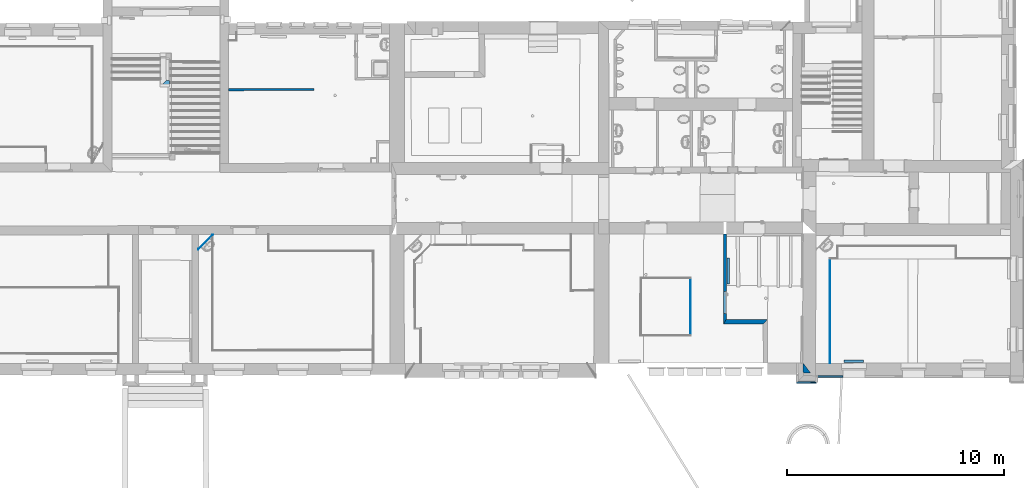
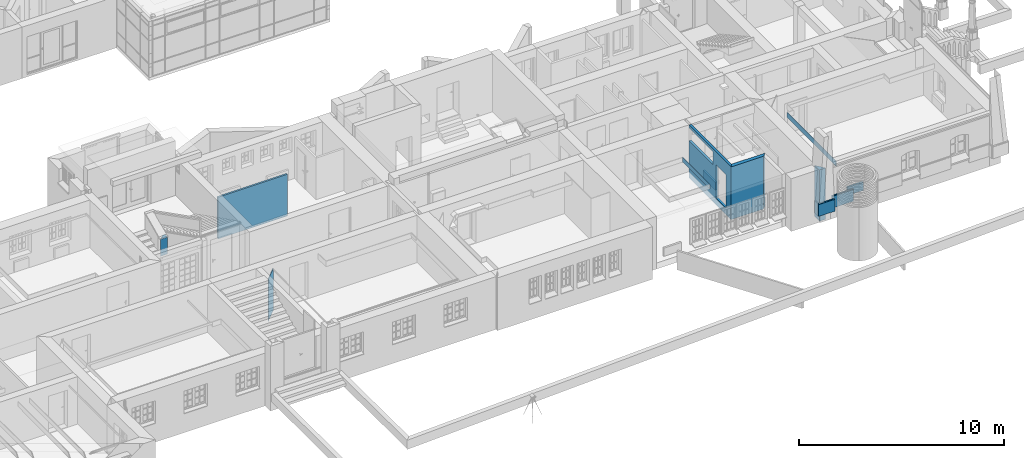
# One storey, part 38 of 196: 12 walls, 2 openings.
"""IFC2X3 building model written with IfcOpenShell, lengths in metres."""

from ifc_helpers import new_model, entity, si_unit, converted_unit, derived_unit, money_unit, point, direction, frame, frame_2d, origin_with_axes, origin_2d_with_axis, place, context, subcontext, project, spatial, polyline, circle_curve, parameter, trimmed, segment, composite_curve, rectangle, outline, extrude, material, layer, layer_set, layer_usage, type_object, element, save


model = new_model("IFC2X3")

# Units and contexts
model_context = context("Model", 3, precision=1e-05, world=origin_with_axes(), true_north=direction((0.0, 1.0)))
body_context = subcontext(model_context, "Body", "Model", "MODEL_VIEW")
ifc_project = project(units=[si_unit("LENGTHUNIT", "METRE"), si_unit("AREAUNIT", "SQUARE_METRE"), si_unit("VOLUMEUNIT", "CUBIC_METRE"), converted_unit("PLANEANGLEUNIT", "DEGREE", entity("IfcPlaneAngleMeasure", 0.0174532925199), si_unit("PLANEANGLEUNIT", "RADIAN"), dimensions=[0, 0, 0, 0, 0, 0, 0]), money_unit("EUR"), converted_unit("TIMEUNIT", "Year", entity("IfcTimeMeasure", 31556926.0), si_unit("TIMEUNIT", "SECOND"), dimensions=[0, 0, 1, 0, 0, 0, 0]), si_unit("MASSUNIT", "GRAM", prefix="KILO"), si_unit("THERMODYNAMICTEMPERATUREUNIT", "DEGREE_CELSIUS"), si_unit("LUMINOUSINTENSITYUNIT", "LUMEN"), si_unit("ENERGYUNIT", "JOULE", prefix="MEGA"), derived_unit("THERMALCONDUCTANCEUNIT", [(si_unit("POWERUNIT", "WATT"), 1), (si_unit("LENGTHUNIT", "METRE"), -1), (si_unit("THERMODYNAMICTEMPERATUREUNIT", "KELVIN"), -1)]), derived_unit("SPECIFICHEATCAPACITYUNIT", [(si_unit("ENERGYUNIT", "JOULE"), 1), (si_unit("MASSUNIT", "GRAM", prefix="KILO"), -1), (si_unit("THERMODYNAMICTEMPERATUREUNIT", "KELVIN"), -1)]), derived_unit("MASSDENSITYUNIT", [(si_unit("MASSUNIT", "GRAM", prefix="KILO"), 1), (si_unit("VOLUMEUNIT", "CUBIC_METRE"), -1)])], contexts=[model_context])

# Site, building, storey
site_placement = place(None, origin_with_axes())
site = spatial("IfcSite", under=ifc_project, at=site_placement, Name="Gelände", CompositionType="ELEMENT")
building_placement = place(site_placement, origin_with_axes())
building = spatial("IfcBuilding", under=site, at=building_placement, Name="Gebäude", CompositionType="ELEMENT")
storey_placement = place(building_placement, frame((0.0, 0.0, -3.0), z_axis=(0.0, 0.0, 1.0), x_axis=(1.0, 0.0, 0.0)))
storey = spatial("IfcBuildingStorey", under=building, at=storey_placement, Name="KELLERGESCHOSS", CompositionType="ELEMENT", Elevation=-3.0)

# Walls
ifc_material_1 = material(Name="05_ALLGEMEIN - TRAGENDE BAUTEILE")
ifc_layer_1 = layer(ifc_material_1, 0.4, ventilated="UNKNOWN")
ifc_layer_set_1 = layer_set([ifc_layer_1], Name="05_ALLGEMEIN - TRAGENDE BAUTEILE 0.4")
ifc_layer_usage_1 = layer_usage(ifc_layer_set_1, "AXIS2", "NEGATIVE", 0.4)
wall_type_1 = type_object("IfcWallType", Name="05_ALLGEMEIN - TRAGENDE BAUTEILE 400", PredefinedType="ELEMENTEDWALL")
wall_1_placement = place(storey_placement, frame((21.9741936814, 10.0144287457, -0.36), z_axis=(0.0, 0.0, 1.0), x_axis=(0.00946795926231, -0.999955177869, 0.0)))
element("IfcWallStandardCase", 1, at=wall_1_placement, inside=storey, type_object=wall_type_1, material=ifc_layer_usage_1, Name="Wand-035", ObjectType="ELEMENTEDWALL", context=body_context, shape_type="SweptSolid", body=[
    extrude(outline(polyline([(-0.460017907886, 0.0), (-5.56168722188e-10, 0.0), (-5.56168722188e-10, 0.34487318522), (-0.460017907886, 0.0)])), origin_with_axes(), (0.0, 0.0, 1.0), 3.065),
])
ifc_material_2 = material(Name="43_Gipskarton")
ifc_layer_2 = layer(ifc_material_2, 0.03, ventilated="UNKNOWN")
ifc_layer_set_2 = layer_set([ifc_layer_2], Name="43_Gipskarton 0.03")
ifc_layer_usage_2 = layer_usage(ifc_layer_set_2, "AXIS2", "NEGATIVE", 0.03)
wall_type_2 = type_object("IfcWallType", Name="43_Gipskarton 30", PredefinedType="ELEMENTEDWALL")
wall_2_placement = place(storey_placement, frame((-6.14787640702, 15.4045680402, -0.0343679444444), z_axis=(0.0, 0.0, 1.0), x_axis=(0.703426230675, 0.710768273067, 0.0)))
element("IfcWallStandardCase", 2, at=wall_2_placement, inside=storey, type_object=wall_type_2, material=ifc_layer_usage_2, Name="Wand-034", ObjectType="ELEMENTEDWALL", context=body_context, shape_type="SweptSolid", body=[
    extrude(outline(polyline([(0.412194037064, 0.0), (1.38977331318, 0.0), (1.36002988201, 0.03), (0.442496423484, 0.03), (0.412194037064, 0.0)])), origin_with_axes(), (0.0, 0.0, 1.0), 2.49436794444),
])
ifc_layer_usage_3 = layer_usage(ifc_layer_set_2, "AXIS2", "NEGATIVE", 0.0)
wall_3_placement = place(storey_placement, frame((23.2237385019, 15.2753213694, 2.22), z_axis=(0.0, 0.0, 1.0), x_axis=(-0.00243813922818, -0.999997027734, 0.0)))
element("IfcWallStandardCase", 3, at=wall_3_placement, inside=storey, type_object=wall_type_2, material=ifc_layer_usage_3, Name="Wand-073", ObjectType="ELEMENTEDWALL", context=body_context, shape_type="SweptSolid", body=[
    extrude(outline(polyline([(-0.0299239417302, -0.03), (4.8060744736, -0.03), (4.8060744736, 0.0), (0.0, 0.0), (-0.0299239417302, -0.03)])), origin_with_axes(), (0.0, 0.0, 1.0), 0.29),
])
ifc_layer_usage_4 = layer_usage(ifc_layer_set_2, "AXIS2", "NEGATIVE", 0.03)
wall_4_placement = place(storey_placement, frame((16.7971583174, 11.7255781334, 2.35), z_axis=(0.0, 0.0, 1.0), x_axis=(0.000460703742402, 0.999999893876, 0.0)))
element("IfcWallStandardCase", 4, at=wall_4_placement, inside=storey, type_object=wall_type_2, material=ifc_layer_usage_4, Name="Wand-077", ObjectType="ELEMENTEDWALL", context=body_context, shape_type="SweptSolid", body=[
    extrude(outline(polyline([(0.0, 0.0), (2.67967465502, 0.0), (2.64965409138, 0.03), (0.0300708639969, 0.03), (0.0, 0.0)])), origin_with_axes(), (0.0, 0.0, 1.0), 0.27),
])
ifc_material_3 = material(Name="01_ALLGEMEIN - BAUTEIL")
ifc_layer_3 = layer(ifc_material_3, 0.105, ventilated="UNKNOWN")
ifc_layer_set_3 = layer_set([ifc_layer_3], Name="01_ALLGEMEIN - BAUTEIL 0.105")
ifc_layer_usage_5 = layer_usage(ifc_layer_set_3, "AXIS2", "NEGATIVE", 0.0)
wall_type_3 = type_object("IfcWallType", Name="01_ALLGEMEIN - BAUTEIL 105", PredefinedType="ELEMENTEDWALL")
wall_5_placement = place(storey_placement, frame((23.851829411, 10.613421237, 0.217027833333), z_axis=(0.0, 0.0, 1.0), x_axis=(0.999989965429, -0.00447984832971, 0.0)))
element("IfcWallStandardCase", 5, at=wall_5_placement, inside=storey, type_object=wall_type_3, material=ifc_layer_usage_5, Name="Wand-036", ObjectType="ELEMENTEDWALL", context=body_context, shape_type="SweptSolid", body=[
    extrude(outline(polyline([(0.0, -0.105), (0.891085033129, -0.105), (0.891085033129, 0.0), (0.0, 0.0), (0.0, -0.105)])), origin_with_axes(), (0.0, 0.0, 1.0), 0.485031),
])
ifc_layer_usage_6 = layer_usage(ifc_layer_set_3, "AXIS2", "NEGATIVE", 0.105)
wall_6_placement = place(storey_placement, frame((18.5712913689, 14.1164183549, 0.217027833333), z_axis=(0.0, 0.0, 1.0), x_axis=(0.00219004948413, 0.999997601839, 0.0)))
element("IfcWallStandardCase", 6, at=wall_6_placement, inside=storey, type_object=wall_type_3, material=ifc_layer_usage_6, Name="Wand-036", ObjectType="ELEMENTEDWALL", context=body_context, shape_type="SweptSolid", body=[
    extrude(outline(polyline([(0.0, 0.0), (1.19576771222, 0.0), (1.19576771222, 0.105), (0.0, 0.105), (0.0, 0.0)])), origin_with_axes(), (0.0, 0.0, 1.0), 0.485031),
])
ifc_layer_4 = layer(ifc_material_2, 0.1, ventilated="UNKNOWN")
ifc_layer_set_4 = layer_set([ifc_layer_4], Name="43_Gipskarton 0.1")
ifc_layer_usage_7 = layer_usage(ifc_layer_set_4, "AXIS2", "NEGATIVE", 0.0)
wall_type_4 = type_object("IfcWallType", Name="43_Gipskarton 100", PredefinedType="ELEMENTEDWALL")
wall_7_placement = place(storey_placement, frame((-4.46364937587, 23.1067100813, -0.04), z_axis=(0.0, 0.0, 1.0), x_axis=(0.999995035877, 0.0031509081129, 0.0)))
element("IfcWallStandardCase", 7, at=wall_7_placement, inside=storey, type_object=wall_type_4, material=ifc_layer_usage_7, Name="Wand-039", ObjectType="ELEMENTEDWALL", context=body_context, shape_type="SweptSolid", body=[
    extrude(outline(polyline([(-0.00035918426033, -0.1), (3.93183830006, -0.1), (3.93183830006, 0.0), (0.0, 0.0), (-0.00035918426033, -0.1)])), origin_with_axes(), (0.0, 0.0, 1.0), 2.48),
])

# Wall, openings
ifc_layer_5 = layer(ifc_material_1, 0.13, ventilated="UNKNOWN")
ifc_layer_set_5 = layer_set([ifc_layer_5], Name="05_ALLGEMEIN - TRAGENDE BAUTEILE 0.13")
ifc_layer_usage_8 = layer_usage(ifc_layer_set_5, "AXIS2", "NEGATIVE", 0.13)
wall_type_5 = type_object("IfcWallType", Name="05_ALLGEMEIN - TRAGENDE BAUTEILE 130", PredefinedType="ELEMENTEDWALL")
wall_8_placement = place(storey_placement, frame((18.4315065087, 12.4853995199, -0.36), z_axis=(0.0, 0.0, 1.0), x_axis=(0.00209980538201, 0.999997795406, 0.0)))
wall_8 = element("IfcWallStandardCase", 8, at=wall_8_placement, inside=storey, type_object=wall_type_5, material=ifc_layer_usage_8, Name="Wand-036", ObjectType="ELEMENTEDWALL", context=body_context, shape_type="SweptSolid", body=[
    extrude(outline(polyline([(0.0, 0.0), (3.93884039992, 0.0), (3.93835721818, 0.13), (-0.200101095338, 0.13), (0.0, 0.0)])), origin_with_axes(), (0.0, 0.0, 1.0), 3.15),
])
opening_1_placement = place(wall_8_placement, frame((2.74600881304, 0.0, 2.202371), z_axis=(0.0, 0.0, 1.0), x_axis=(1.0, 0.0, 0.0)))
element("IfcOpeningElement", 9, at=opening_1_placement, cuts=wall_8, Name="Fenster-019", context=body_context, shape_type="SweptSolid", body=[
    extrude(rectangle(XDim=2.38566317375, YDim=0.777629, at=origin_2d_with_axis()), frame((0.0, -0.13, 0.3888145), z_axis=(0.0, 1.0, 0.0), x_axis=(-1.0, 0.0, 0.0)), (0.0, 0.0, 1.0), 0.39),
])
opening_2_placement = place(wall_8_placement, frame((0.780892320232, 0.0, 0.384264), z_axis=(0.0, 0.0, 1.0), x_axis=(1.0, 0.0, 0.0)))
element("IfcOpeningElement", 10, at=opening_2_placement, cuts=wall_8, Name="Tür-022", context=body_context, shape_type="SweptSolid", body=[
    extrude(rectangle(XDim=0.994294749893, YDim=1.98261, at=origin_2d_with_axis()), frame((0.0, -0.13, 0.991305), z_axis=(0.0, 1.0, 0.0), x_axis=(-1.0, 0.0, 0.0)), (0.0, 0.0, 1.0), 0.39),
])

# Walls
ifc_material_4 = material(Name="60_MW Porenbeton")
ifc_layer_6 = layer(ifc_material_4, 0.2, ventilated="UNKNOWN")
ifc_layer_set_6 = layer_set([ifc_layer_6], Name="60_MW Porenbeton 0.2")
ifc_layer_usage_9 = layer_usage(ifc_layer_set_6, "AXIS2", "NEGATIVE", 0.2)
wall_type_6 = type_object("IfcWallType", Name="60_MW Porenbeton 200", PredefinedType="ELEMENTEDWALL")
wall_9_placement = place(storey_placement, frame((20.3286065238, 12.482890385, -0.36), z_axis=(0.0, 0.0, 1.0), x_axis=(-0.999999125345, 0.00132261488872, 0.0)))
element("IfcWallStandardCase", 11, at=wall_9_placement, inside=storey, type_object=wall_type_6, material=ifc_layer_usage_9, Name="Wand-037", ObjectType="ELEMENTEDWALL", context=body_context, shape_type="SweptSolid", body=[
    extrude(outline(polyline([(0.0, 0.0), (1.89710167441, 0.0), (2.02725715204, 0.2), (0.198828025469, 0.2), (0.0, 0.0)])), origin_with_axes(), (0.0, 0.0, 1.0), 3.15),
])
ifc_layer_7 = layer(ifc_material_1, 0.263583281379, ventilated="UNKNOWN")
ifc_layer_set_7 = layer_set([ifc_layer_7], Name="05_ALLGEMEIN - TRAGENDE BAUTEILE 0.263583")
ifc_layer_usage_10 = layer_usage(ifc_layer_set_7, "AXIS2", "NEGATIVE", 0.0)
wall_type_7 = type_object("IfcWallType", Name="05_ALLGEMEIN - TRAGENDE BAUTEILE 264", PredefinedType="ELEMENTEDWALL")
wall_10_placement = place(storey_placement, frame((-6.92928317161, 23.2180401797, -0.1), z_axis=(0.0, 0.0, 1.0), x_axis=(-0.999917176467, -0.012870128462, 0.0)))
element("IfcWallStandardCase", 12, at=wall_10_placement, inside=storey, type_object=wall_type_7, material=ifc_layer_usage_10, Name="Wand-038", ObjectType="ELEMENTEDWALL", context=body_context, shape_type="SweptSolid", body=[
    extrude(outline(polyline([(0.260212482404, -0.263583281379), (0.405553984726, -0.263583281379), (0.670612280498, 0.0), (0.263605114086, 0.0), (0.260212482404, -0.263583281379)])), origin_with_axes(), (0.0, 0.0, 1.0), 1.01149196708),
])
wall_type_8 = type_object("IfcWallType", Name="Sockel 1 59 x 750", PredefinedType="ELEMENTEDWALL")
wall_11_placement = place(storey_placement, frame((23.7937389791, 9.88941769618, 1.05914340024), z_axis=(0.0, 0.0, 1.0), x_axis=(-0.999999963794, -0.000269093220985, 0.0)))
element("IfcWall", 13, at=wall_11_placement, inside=storey, type_object=wall_type_8, material=ifc_material_3, Name="Wand-079", ObjectType="ELEMENTEDWALL", context=body_context, shape_type="SweptSolid", body=[
    extrude(outline(composite_curve([segment(polyline([(0.0582254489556, -0.75), (0.0575648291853, -0.072488)]), True, "CONTINUOUS"), segment(trimmed(circle_curve(frame_2d((0.00752199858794, -0.0589368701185), x_axis=(0.965236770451, -0.261377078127)), 0.0518451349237), [point((0.0575648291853, -0.072488)), parameter(0.0)], [point((0.0162927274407, -0.007839)), parameter(95.4121261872)], True, "CARTESIAN"), True, "CONTINUOUS"), segment(polyline([(0.0162927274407, -0.007839), (0.00232171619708, 0.0), (0.0, 0.0), (0.0, -0.75), (0.0582254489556, -0.75)]), True, "CONTINUOUS")], self_intersect=False)), frame((0.0, 0.0, 0.0), z_axis=(1.0, 0.0, 0.0), x_axis=(0.0, 1.0, 0.0)), (0.0, 0.0, 1.0), 1.21176734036),
])
wall_12_placement = place(storey_placement, frame((22.5786250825, 9.6059762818, 1.05914340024), z_axis=(0.0, 0.0, 1.0), x_axis=(-0.999925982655, 0.0121667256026, 0.0)))
element("IfcWall", 14, at=wall_12_placement, inside=storey, type_object=wall_type_8, material=ifc_material_3, Name="Wand-080", ObjectType="ELEMENTEDWALL", context=body_context, shape_type="SweptSolid", body=[
    extrude(outline(composite_curve([segment(polyline([(0.0582254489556, -0.75), (0.0575648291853, -0.072488)]), True, "CONTINUOUS"), segment(trimmed(circle_curve(frame_2d((0.00752199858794, -0.0589368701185), x_axis=(0.965236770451, -0.261377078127)), 0.0518451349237), [point((0.0575648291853, -0.072488)), parameter(0.0)], [point((0.0162927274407, -0.007839)), parameter(95.4121261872)], True, "CARTESIAN"), True, "CONTINUOUS"), segment(polyline([(0.0162927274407, -0.007839), (0.00232171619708, 0.0), (0.0, 0.0), (0.0, -0.75), (0.0582254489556, -0.75)]), True, "CONTINUOUS")], self_intersect=False)), frame((0.0, 0.0, 0.0), z_axis=(1.0, 0.0, 0.0), x_axis=(0.0, 1.0, 0.0)), (0.0, 0.0, 1.0), 0.909930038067),
])

save(model, "model.ifc")
